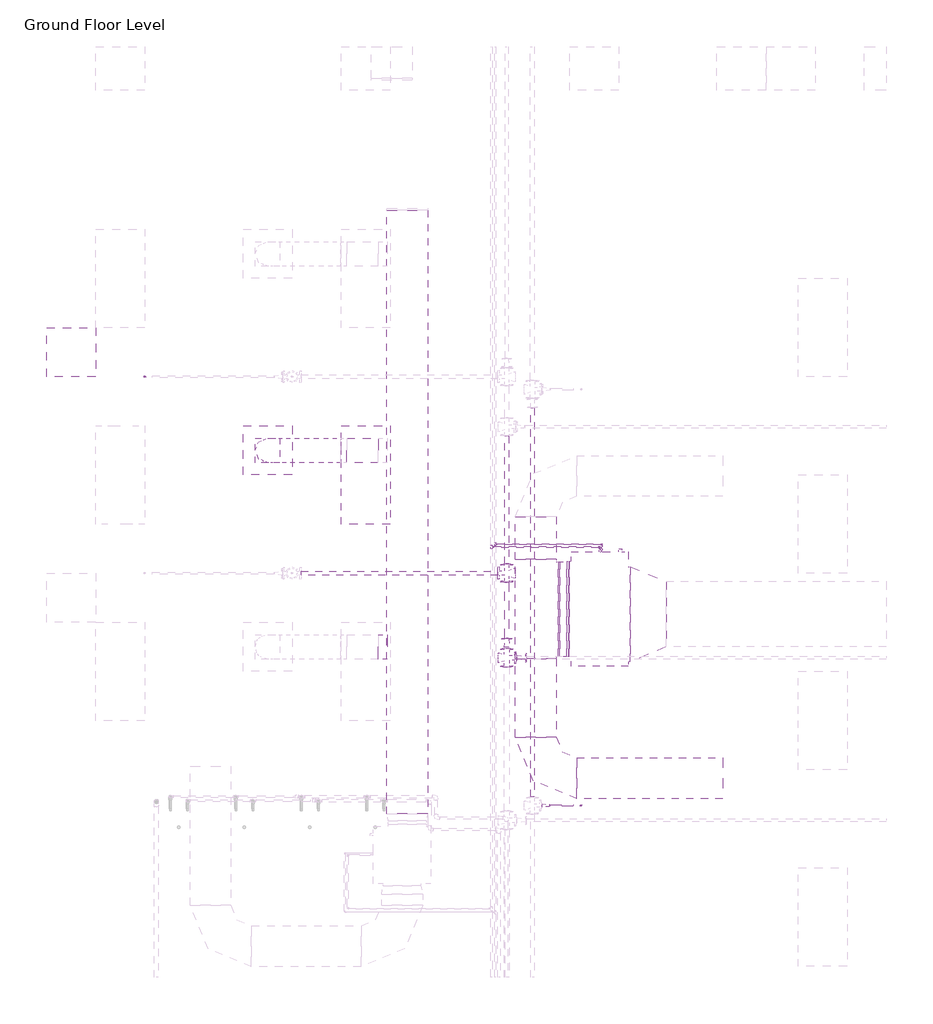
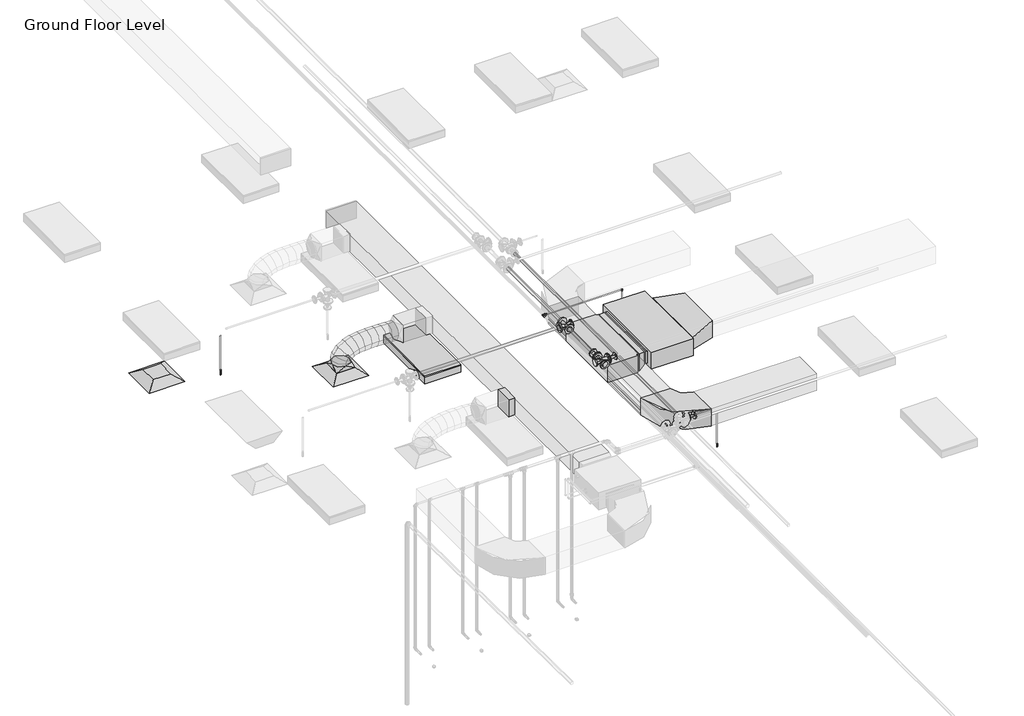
# One storey, part 26 of 75: 15 pipe fittings, 13 pipe segments, 8 duct segments, 7 duct fittings, 2 air terminals, 2 fire suppression terminals, 1 light fixture, 1 proxy.
"""IFC4 building model written with IfcOpenShell, lengths in millimetres."""

from ifc_helpers import new_model, si_unit, point, frame, frame_2d, origin, place, context, project, spatial, polyline, circle_curve, ellipse_curve, trimmed, segment, composite_curve, outline, extrude, transform, mapped, element, save
from ifc_brep_helpers import plane_surface, cylinder_surface, advanced_brep
from components import m_return_diffuser_600_x_600_face_300_x_300_connection_ff221211, fcu_daikin_iu_5a1bd61d, m_rectangular_elbow_radius_1_w_abe20169, m_rectangular_takeoff_standard_cb0ccb98, m_rectangular_tee_standard_c717c13b, m_rectangular_transition_angle_45_degree_d2868699, m_rectangular_transition_angle_45_degree_3270bfc3, m_rectangular_transition_angle_45_degree_83bbb609, m_rectangular_to_round_transition_angle_45_degree_641efff0, m_sprinkler_dry_pendent_hosted_15_mm_dry_pendent_9bda8e11, m_sprinkler_pendent_15_mm_pendent_06fcbd8e, m_troffer_light_parabolic_rectangular1_0600x1200mm_4_lamp_86473d4a, m_elbow_generic_standard_a088f956, m_elbow_generic_standard_2a704253, m_elbow_generic_standard_411ee063, m_elbow_generic_standard_a67d3ed8, m_reducer_flanged_cs_class_150_standard_cc2a7c1d, m_reducer_flanged_cs_class_150_standard_3ab32b2b, m_reducer_flanged_cs_class_150_standard_a7631c35, m_tee_generic_standard_5b2ed4d4, m_tee_generic_standard_5078887e, m_tee_round_base_flanged_cs_class_150_standard_dd767e04, m_tee_round_base_flanged_cs_class_150_standard_ab36f383, m_transition_generic_standard_5f8a9689, m_transition_generic_standard_bdcfe2c1, m_transition_generic_standard_44e35838, m_transition_generic_standard_570aa73b

model = new_model("IFC4")

# Units and contexts
model_context = context("Model", 3, world=origin())
ifc_project = project(units=[si_unit("LENGTHUNIT", "METRE", prefix="MILLI")], contexts=[model_context])

# Site, building, storey
site = spatial("IfcSite", under=ifc_project)
building = spatial("IfcBuilding", under=site)
storey = spatial("IfcBuildingStorey", under=building, Name="Ground Floor Level", Elevation=900.0)

# Air terminals
placement = place(None, origin())
m_return_diffuser_600_x_600_face_300_x_300_connection_shape = m_return_diffuser_600_x_600_face_300_x_300_connection_ff221211(model_context)
element("IfcAirTerminal", 1, ObjectType="M_Return Diffuser : 600 x 600 Face 300 x 300 Connection", at=placement, inside=storey, context=model_context, shape_type="MappedRepresentation", body=[
    mapped(m_return_diffuser_600_x_600_face_300_x_300_connection_shape, transform((362.7672395, -18364.7846466, 3650.0), x_axis=(1.0, 0.0, 0.0), y_axis=(0.0, 1.0, 0.0), z_axis=(0.0, 0.0, 1.0))),
])
element("IfcAirTerminal", 2, ObjectType="M_Supply Diffuser : 600 x 600 Face 300 x 300 Connection", at=placement, inside=storey, context=model_context, shape_type="MappedRepresentation", body=[
    mapped(m_return_diffuser_600_x_600_face_300_x_300_connection_shape, transform((2762.7672395, -19564.7846466, 3650.0), x_axis=(1.0, 0.0, 0.0), y_axis=(0.0, 1.0, 0.0), z_axis=(0.0, 0.0, 1.0))),
])

# Proxy
fcu_daikin_iu_shape = fcu_daikin_iu_5a1bd61d(model_context)
element("IfcBuildingElementProxy", 3, Name="FCU-DAIKIN IU : 9kW, 230V/50Hz/1Ph", ObjectType="FCU-DAIKIN IU : 9kW, 230V/50Hz/1Ph", at=placement, inside=storey, context=model_context, shape_type="MappedRepresentation", body=[
    mapped(fcu_daikin_iu_shape, transform((6820.4959647, -21503.0689179, 3984.0882279), x_axis=(0.0, 1.0, 0.0), y_axis=(-1.0, 0.0, 0.0), z_axis=(0.0, 0.0, 1.0))),
])

# Duct fittings
m_rectangular_elbow_radius_1_w_shape = m_rectangular_elbow_radius_1_w_abe20169(model_context)
element("IfcDuctFitting", 4, ObjectType="M_Rectangular Elbow - Radius : 1 W", at=placement, inside=storey, context=model_context, shape_type="MappedRepresentation", body=[
    mapped(m_rectangular_elbow_radius_1_w_shape, transform((6040.9897768, -23568.5689179, 4082.4543707), x_axis=(0.0, -1.0, 0.0), y_axis=(1.0, 0.0, 0.0), z_axis=(0.0, 0.0, 1.0))),
])
m_rectangular_takeoff_standard_shape = m_rectangular_takeoff_standard_cb0ccb98(model_context)
element("IfcDuctFitting", 5, ObjectType="M_Rectangular Takeoff : Standard", at=placement, inside=storey, context=model_context, shape_type="MappedRepresentation", body=[
    mapped(m_rectangular_takeoff_standard_shape, transform((4219.1581832, -21964.7846466, 4057.1519579), x_axis=(-1.0, 0.0, 0.0), y_axis=(0.0, 1.0, 0.0), z_axis=(0.0, 0.0, -1.0))),
])
m_rectangular_tee_standard_shape = m_rectangular_tee_standard_c717c13b(model_context)
element("IfcDuctFitting", 6, ObjectType="M_Rectangular Tee : Standard", at=placement, inside=storey, context=model_context, shape_type="MappedRepresentation", body=[
    mapped(m_rectangular_tee_standard_shape, transform((6040.9973279, -21503.0689179, 4082.4405262), x_axis=(0.0, -1.0, 0.0), y_axis=(-1.0, 0.0, 0.0), z_axis=(0.0, 0.0, -1.0))),
])
m_rectangular_transition_angle_45_degree_shape = m_rectangular_transition_angle_45_degree_d2868699(model_context)
element("IfcDuctFitting", 7, ObjectType="M_Rectangular Transition - Angle : 45 Degree", at=placement, inside=storey, context=model_context, shape_type="MappedRepresentation", body=[
    mapped(m_rectangular_transition_angle_45_degree_shape, transform((7195.8959647, -21566.5689179, 4150.0007279), x_axis=(1.0, 0.0, 0.0), y_axis=(0.0, 1.0, 0.0), z_axis=(0.0, 0.0, 1.0))),
])
m_rectangular_transition_angle_45_degree_2_shape = m_rectangular_transition_angle_45_degree_3270bfc3(model_context)
element("IfcDuctFitting", 8, ObjectType="M_Rectangular Transition - Angle : 45 Degree", at=placement, inside=storey, context=model_context, shape_type="MappedRepresentation", body=[
    mapped(m_rectangular_transition_angle_45_degree_2_shape, transform((6445.0959647, -21503.0689179, 4125.2882279), x_axis=(-1.0, 0.0, 0.0), y_axis=(0.0, -1.0, 0.0), z_axis=(0.0, 0.0, 1.0))),
])
m_rectangular_transition_angle_45_degree_3_shape = m_rectangular_transition_angle_45_degree_83bbb609(model_context)
element("IfcDuctFitting", 9, ObjectType="M_Rectangular Transition - Angle : 45 Degree", at=placement, inside=storey, context=model_context, shape_type="MappedRepresentation", body=[
    mapped(m_rectangular_transition_angle_45_degree_3_shape, transform((6416.9897764, -21503.0689179, 4125.4405264), x_axis=(-1.0, 0.0, 0.0), y_axis=(0.0, -1.0, 0.0), z_axis=(0.0, 0.0, 1.0))),
])
m_rectangular_to_round_transition_angle_45_degree_shape = m_rectangular_to_round_transition_angle_45_degree_641efff0(model_context)
element("IfcDuctFitting", 10, ObjectType="M_Rectangular to Round Transition - Angle : 45 Degree", at=placement, inside=storey, context=model_context, shape_type="MappedRepresentation", body=[
    mapped(m_rectangular_to_round_transition_angle_45_degree_shape, transform((2762.7672395, -19564.7846466, 3751.6), x_axis=(0.0, 0.0, 1.0), y_axis=(-1.0, 0.0, 0.0), z_axis=(0.0, -1.0, 0.0))),
])

# Duct segments
element("IfcDuctSegment", 11, ObjectType="Flex - Round", at=placement, inside=storey, context=model_context, shape_type="AdvancedBrep", body=[
    advanced_brep(
    [(2912.7672395, -19564.7846466, 3826.6), (2762.7672395, -19714.7846466, 3826.6), (2612.7672395, -19564.7846466, 3826.6), (2762.7672395, -19414.7846466, 3826.6), (2912.7672395, -19564.7846466, 3832.8904098), (2762.7672395, -19714.7846466, 3856.8495224), (2612.7672395, -19564.7846466, 3880.8086351), (2762.7672395, -19414.7846466, 3856.8495224), (2914.0858346, -19564.7846466, 3836.9127437), (2779.5129112, -19714.7846466, 3907.9316792), (2644.9399878, -19564.7846466, 3978.9506146), (2779.5129112, -19414.7846466, 3907.9316792), (2928.1335887, -19564.7846466, 3855.2238886), (2826.2860191, -19714.7846466, 3968.9000837), (2724.4384494, -19564.7846466, 4082.5762788), (2826.2860191, -19414.7846466, 3968.9000837), (2960.0751433, -19564.7846466, 3874.5771306), (2897.8907021, -19714.7846466, 4012.2850341), (2835.706261, -19564.7846466, 4149.9929377), (2897.8907021, -19414.7846466, 4012.2850341), (3023.3472749, -19564.7846466, 3894.3973079), (2989.1310994, -19714.7846466, 4040.8663511), (2954.9149239, -19564.7846466, 4187.3353943), (2989.1310994, -19414.7846466, 4040.8663511), (3111.2181676, -19564.7846466, 3908.1645223), (3094.81135, -19714.7846466, 4057.4238552), (3078.4045323, -19564.7846466, 4206.6831881), (3094.81135, -19414.7846466, 4057.4238552), (3215.0384102, -19564.7846466, 3914.7714012), (3209.7355929, -19714.7846466, 4064.7373669), (3204.4327755, -19564.7846466, 4214.7033325), (3209.7355929, -19414.7846466, 4064.7373669), (3327.4389939, -19564.7846466, 3915.5738253), (3328.7079672, -19714.7846466, 4065.5867068), (3329.9769404, -19564.7846466, 4215.5995883), (3328.7079672, -19414.7846466, 4065.5867068), (3442.2140413, -19564.7846466, 3912.8121913), (3446.5326119, -19714.7846466, 4062.7516956), (3450.8511825, -19564.7846466, 4212.6911999), (3446.5326119, -19414.7846466, 4062.7516956), (3554.0600336, -19564.7846466, 3909.0604079), (3558.0136661, -19714.7846466, 4059.0121538), (3561.9672986, -19564.7846466, 4208.9638996), (3558.0136661, -19414.7846466, 4059.0121538), (3657.9552689, -19564.7846466, 3907.1479019), (3657.9552689, -19414.7846466, 4057.1479019), (3657.9552689, -19564.7846466, 4207.1479019), (3657.9552689, -19714.7846466, 4057.1479019), (3653.7185823, -19564.7846466, 3907.1479019), (3655.1577438, -19714.7846466, 4057.1479019), (3656.5969053, -19564.7846466, 4207.1479019), (3655.1577438, -19414.7846466, 4057.1479019)],
    [
        (0, 1, circle_curve(frame((2762.7672395, -19564.7846466, 3826.6), z_axis=(0.0, 0.0, -1.0), x_axis=(1.0, 0.0, 0.0)), 150.0)),
        (1, 2, circle_curve(frame((2762.7672395, -19564.7846466, 3826.6), z_axis=(0.0, 0.0, -1.0), x_axis=(1.0, 0.0, 0.0)), 150.0)),
        (2, 3, circle_curve(frame((2762.7672395, -19564.7846466, 3826.6), z_axis=(0.0, 0.0, -1.0), x_axis=(1.0, 0.0, 0.0)), 150.0)),
        (3, 0, circle_curve(frame((2762.7672395, -19564.7846466, 3826.6), z_axis=(0.0, 0.0, -1.0), x_axis=(1.0, 0.0, 0.0)), 150.0)),
        (0, 4),
        (4, 5, ellipse_curve(frame((2762.7672395, -19564.7846466, 3856.8495224), z_axis=(-0.157728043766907, 0.0, -0.9874825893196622), x_axis=(0.9874825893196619, 0.0, -0.15772804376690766)), 151.9014124, 150.0)),
        (5, 1),
        (5, 6, ellipse_curve(frame((2762.7672395, -19564.7846466, 3856.8495224), z_axis=(-0.157728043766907, 0.0, -0.9874825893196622), x_axis=(0.9874825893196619, 0.0, -0.15772804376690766)), 151.9014124, 150.0)),
        (6, 2),
        (6, 7, ellipse_curve(frame((2762.7672395, -19564.7846466, 3856.8495224), z_axis=(-0.157728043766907, 0.0, -0.9874825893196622), x_axis=(0.9874825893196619, 0.0, -0.15772804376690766)), 151.9014124, 150.0)),
        (7, 3),
        (7, 4, ellipse_curve(frame((2762.7672395, -19564.7846466, 3856.8495224), z_axis=(-0.157728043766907, 0.0, -0.9874825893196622), x_axis=(0.9874825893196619, 0.0, -0.15772804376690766)), 151.9014124, 150.0)),
        (4, 8),
        (8, 9, ellipse_curve(frame((2779.5129112, -19564.7846466, 3907.9316792), z_axis=(-0.4667295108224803, 0.0, -0.8844001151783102), x_axis=(0.8844001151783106, 0.0, -0.46672951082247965)), 152.162942, 150.0)),
        (9, 5),
        (9, 10, ellipse_curve(frame((2779.5129112, -19564.7846466, 3907.9316792), z_axis=(-0.4667295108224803, 0.0, -0.8844001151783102), x_axis=(0.8844001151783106, 0.0, -0.46672951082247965)), 152.162942, 150.0)),
        (10, 6),
        (10, 11, ellipse_curve(frame((2779.5129112, -19564.7846466, 3907.9316792), z_axis=(-0.4667295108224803, 0.0, -0.8844001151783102), x_axis=(0.8844001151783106, 0.0, -0.46672951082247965)), 152.162942, 150.0)),
        (11, 7),
        (11, 8, ellipse_curve(frame((2779.5129112, -19564.7846466, 3907.9316792), z_axis=(-0.4667295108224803, 0.0, -0.8844001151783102), x_axis=(0.8844001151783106, 0.0, -0.46672951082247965)), 152.162942, 150.0)),
        (8, 12),
        (12, 13, ellipse_curve(frame((2826.2860191, -19564.7846466, 3968.9000837), z_axis=(-0.7447941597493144, 0.0, -0.667294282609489), x_axis=(0.6672942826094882, 0.0, -0.7447941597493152)), 152.6276671, 150.0)),
        (13, 9),
        (13, 14, ellipse_curve(frame((2826.2860191, -19564.7846466, 3968.9000837), z_axis=(-0.7447941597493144, 0.0, -0.667294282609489), x_axis=(0.6672942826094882, 0.0, -0.7447941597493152)), 152.6276671, 150.0)),
        (14, 10),
        (14, 15, ellipse_curve(frame((2826.2860191, -19564.7846466, 3968.9000837), z_axis=(-0.7447941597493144, 0.0, -0.667294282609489), x_axis=(0.6672942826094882, 0.0, -0.7447941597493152)), 152.6276671, 150.0)),
        (15, 11),
        (15, 12, ellipse_curve(frame((2826.2860191, -19564.7846466, 3968.9000837), z_axis=(-0.7447941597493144, 0.0, -0.667294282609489), x_axis=(0.6672942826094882, 0.0, -0.7447941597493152)), 152.6276671, 150.0)),
        (12, 16),
        (16, 17, ellipse_curve(frame((2897.8907021, -19564.7846466, 4012.2850341), z_axis=(-0.9113860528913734, 0.0, -0.4115525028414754), x_axis=(0.4115525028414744, 0.0, -0.911386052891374)), 151.097225, 150.0)),
        (17, 13),
        (17, 18, ellipse_curve(frame((2897.8907021, -19564.7846466, 4012.2850341), z_axis=(-0.9113860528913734, 0.0, -0.4115525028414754), x_axis=(0.4115525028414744, 0.0, -0.911386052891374)), 151.097225, 150.0)),
        (18, 14),
        (18, 19, ellipse_curve(frame((2897.8907021, -19564.7846466, 4012.2850341), z_axis=(-0.9113860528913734, 0.0, -0.4115525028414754), x_axis=(0.4115525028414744, 0.0, -0.911386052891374)), 151.097225, 150.0)),
        (19, 15),
        (19, 16, ellipse_curve(frame((2897.8907021, -19564.7846466, 4012.2850341), z_axis=(-0.9113860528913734, 0.0, -0.4115525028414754), x_axis=(0.4115525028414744, 0.0, -0.911386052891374)), 151.097225, 150.0)),
        (16, 20),
        (20, 21, ellipse_curve(frame((2989.1310994, -19564.7846466, 4040.8663511), z_axis=(-0.9737822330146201, 0.0, -0.2274822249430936), x_axis=(0.22748222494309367, 0.0, -0.9737822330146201)), 150.4125237, 150.0)),
        (21, 17),
        (21, 22, ellipse_curve(frame((2989.1310994, -19564.7846466, 4040.8663511), z_axis=(-0.9737822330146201, 0.0, -0.2274822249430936), x_axis=(0.22748222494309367, 0.0, -0.9737822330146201)), 150.4125237, 150.0)),
        (22, 18),
        (22, 23, ellipse_curve(frame((2989.1310994, -19564.7846466, 4040.8663511), z_axis=(-0.9737822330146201, 0.0, -0.2274822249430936), x_axis=(0.22748222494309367, 0.0, -0.9737822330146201)), 150.4125237, 150.0)),
        (23, 19),
        (23, 20, ellipse_curve(frame((2989.1310994, -19564.7846466, 4040.8663511), z_axis=(-0.9737822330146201, 0.0, -0.2274822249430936), x_axis=(0.22748222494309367, 0.0, -0.9737822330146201)), 150.4125237, 150.0)),
        (20, 24),
        (24, 25, ellipse_curve(frame((3094.81135, -19564.7846466, 4057.4238552), z_axis=(-0.9940128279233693, 0.0, -0.10926343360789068), x_axis=(0.10926343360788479, 0.0, -0.9940128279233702)), 150.1583568, 150.0)),
        (25, 21),
        (25, 26, ellipse_curve(frame((3094.81135, -19564.7846466, 4057.4238552), z_axis=(-0.9940128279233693, 0.0, -0.10926343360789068), x_axis=(0.10926343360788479, 0.0, -0.9940128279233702)), 150.1583568, 150.0)),
        (26, 22),
        (26, 27, ellipse_curve(frame((3094.81135, -19564.7846466, 4057.4238552), z_axis=(-0.9940128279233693, 0.0, -0.10926343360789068), x_axis=(0.10926343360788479, 0.0, -0.9940128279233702)), 150.1583568, 150.0)),
        (27, 23),
        (27, 24, ellipse_curve(frame((3094.81135, -19564.7846466, 4057.4238552), z_axis=(-0.9940128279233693, 0.0, -0.10926343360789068), x_axis=(0.10926343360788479, 0.0, -0.9940128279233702)), 150.1583568, 150.0)),
        (24, 28),
        (28, 29, ellipse_curve(frame((3209.7355929, -19564.7846466, 4064.7373669), z_axis=(-0.9993754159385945, 0.0, -0.03533805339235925), x_axis=(0.03533805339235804, 0.0, -0.9993754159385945)), 150.0596906, 150.0)),
        (29, 25),
        (29, 30, ellipse_curve(frame((3209.7355929, -19564.7846466, 4064.7373669), z_axis=(-0.9993754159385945, 0.0, -0.03533805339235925), x_axis=(0.03533805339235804, 0.0, -0.9993754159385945)), 150.0596906, 150.0)),
        (30, 26),
        (30, 31, ellipse_curve(frame((3209.7355929, -19564.7846466, 4064.7373669), z_axis=(-0.9993754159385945, 0.0, -0.03533805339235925), x_axis=(0.03533805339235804, 0.0, -0.9993754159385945)), 150.0596906, 150.0)),
        (31, 27),
        (31, 28, ellipse_curve(frame((3209.7355929, -19564.7846466, 4064.7373669), z_axis=(-0.9993754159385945, 0.0, -0.03533805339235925), x_axis=(0.03533805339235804, 0.0, -0.9993754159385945)), 150.0596906, 150.0)),
        (28, 32),
        (32, 33, ellipse_curve(frame((3328.7079672, -19564.7846466, 4065.5867068), z_axis=(-0.9999642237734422, 0.0, 0.008458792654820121), x_axis=(-0.008458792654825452, 0.0, -0.9999642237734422)), 150.0182486, 150.0)),
        (33, 29),
        (33, 34, ellipse_curve(frame((3328.7079672, -19564.7846466, 4065.5867068), z_axis=(-0.9999642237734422, 0.0, 0.008458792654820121), x_axis=(-0.008458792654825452, 0.0, -0.9999642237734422)), 150.0182486, 150.0)),
        (34, 30),
        (34, 35, ellipse_curve(frame((3328.7079672, -19564.7846466, 4065.5867068), z_axis=(-0.9999642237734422, 0.0, 0.008458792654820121), x_axis=(-0.008458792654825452, 0.0, -0.9999642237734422)), 150.0182486, 150.0)),
        (35, 31),
        (35, 32, ellipse_curve(frame((3328.7079672, -19564.7846466, 4065.5867068), z_axis=(-0.9999642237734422, 0.0, 0.008458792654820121), x_axis=(-0.008458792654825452, 0.0, -0.9999642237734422)), 150.0182486, 150.0)),
        (32, 36),
        (36, 37, ellipse_curve(frame((3446.5326119, -19564.7846466, 4062.7516956), z_axis=(-0.9995854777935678, 0.0, 0.02879014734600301), x_axis=(-0.028790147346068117, 0.0, -0.999585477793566)), 150.0016833, 150.0)),
        (37, 33),
        (37, 38, ellipse_curve(frame((3446.5326119, -19564.7846466, 4062.7516956), z_axis=(-0.9995854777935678, 0.0, 0.02879014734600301), x_axis=(-0.028790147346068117, 0.0, -0.999585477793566)), 150.0016833, 150.0)),
        (38, 34),
        (38, 39, ellipse_curve(frame((3446.5326119, -19564.7846466, 4062.7516956), z_axis=(-0.9995854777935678, 0.0, 0.02879014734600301), x_axis=(-0.028790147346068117, 0.0, -0.999585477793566)), 150.0016833, 150.0)),
        (39, 35),
        (39, 36, ellipse_curve(frame((3446.5326119, -19564.7846466, 4062.7516956), z_axis=(-0.9995854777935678, 0.0, 0.02879014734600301), x_axis=(-0.028790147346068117, 0.0, -0.999585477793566)), 150.0016833, 150.0)),
        (36, 40),
        (40, 41, ellipse_curve(frame((3558.0136661, -19564.7846466, 4059.0121538), z_axis=(-0.999652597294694, 0.0, 0.026356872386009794), x_axis=(0.02635687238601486, 0.0, 0.9996525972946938)), 150.0038576, 150.0)),
        (41, 37),
        (41, 42, ellipse_curve(frame((3558.0136661, -19564.7846466, 4059.0121538), z_axis=(-0.999652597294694, 0.0, 0.026356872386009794), x_axis=(0.02635687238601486, 0.0, 0.9996525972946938)), 150.0038576, 150.0)),
        (42, 38),
        (42, 43, ellipse_curve(frame((3558.0136661, -19564.7846466, 4059.0121538), z_axis=(-0.999652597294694, 0.0, 0.026356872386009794), x_axis=(0.02635687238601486, 0.0, 0.9996525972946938)), 150.0038576, 150.0)),
        (43, 39),
        (43, 40, ellipse_curve(frame((3558.0136661, -19564.7846466, 4059.0121538), z_axis=(-0.999652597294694, 0.0, 0.026356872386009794), x_axis=(0.02635687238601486, 0.0, 0.9996525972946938)), 150.0038576, 150.0)),
        (44, 45, circle_curve(frame((3657.9552689, -19564.7846466, 4057.1479019), z_axis=(1.0, 0.0, 0.0), x_axis=(0.0, 0.0, -1.0)), 150.0)),
        (45, 46, circle_curve(frame((3657.9552689, -19564.7846466, 4057.1479019), z_axis=(1.0, 0.0, 0.0), x_axis=(0.0, 0.0, -1.0)), 150.0)),
        (46, 47, circle_curve(frame((3657.9552689, -19564.7846466, 4057.1479019), z_axis=(1.0, 0.0, 0.0), x_axis=(0.0, 0.0, -1.0)), 150.0)),
        (47, 44, circle_curve(frame((3657.9552689, -19564.7846466, 4057.1479019), z_axis=(1.0, 0.0, 0.0), x_axis=(0.0, 0.0, -1.0)), 150.0)),
        (40, 48),
        (48, 49, ellipse_curve(frame((3655.1577438, -19564.7846466, 4057.1479019), z_axis=(-0.9999539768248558, 0.0, 0.009593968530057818), x_axis=(0.009593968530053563, 0.0, 0.9999539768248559)), 150.0069038, 150.0)),
        (49, 41),
        (49, 50, ellipse_curve(frame((3655.1577438, -19564.7846466, 4057.1479019), z_axis=(-0.9999539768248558, 0.0, 0.009593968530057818), x_axis=(0.009593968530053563, 0.0, 0.9999539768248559)), 150.0069038, 150.0)),
        (50, 42),
        (50, 51, ellipse_curve(frame((3655.1577438, -19564.7846466, 4057.1479019), z_axis=(-0.9999539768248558, 0.0, 0.009593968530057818), x_axis=(0.009593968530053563, 0.0, 0.9999539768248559)), 150.0069038, 150.0)),
        (51, 43),
        (51, 48, ellipse_curve(frame((3655.1577438, -19564.7846466, 4057.1479019), z_axis=(-0.9999539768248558, 0.0, 0.009593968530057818), x_axis=(0.009593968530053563, 0.0, 0.9999539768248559)), 150.0069038, 150.0)),
        (48, 44),
        (47, 49),
        (46, 50),
        (45, 51),
    ],
    [
        plane_surface(frame((2762.7672395, -19714.7846466, 3826.6), z_axis=(0.0, 0.0, -1.0), x_axis=(1.0, 0.0, 0.0))),
        cylinder_surface(frame((2762.7672395, -19564.7846466, 3826.6), z_axis=(0.0, 0.0, -1.0), x_axis=(1.0, 0.0, 0.0)), 150.0),
        cylinder_surface(frame((2762.7672395, -19564.7846466, 3856.8495224), z_axis=(-0.3115073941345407, 0.0, -0.9502437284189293), x_axis=(0.9502437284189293, 0.0, -0.3115073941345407)), 150.0),
        cylinder_surface(frame((2779.5129112, -19564.7846466, 3907.9316792), z_axis=(-0.6086828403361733, 0.0, -0.7934136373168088), x_axis=(0.7934136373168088, 0.0, -0.6086828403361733)), 150.0),
        cylinder_surface(frame((2826.2860191, -19564.7846466, 3968.9000837), z_axis=(-0.8552604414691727, 0.0, -0.5181983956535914), x_axis=(0.5181983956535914, 0.0, -0.8552604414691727)), 150.0),
        cylinder_surface(frame((2897.8907021, -19564.7846466, 4012.2850341), z_axis=(-0.9542752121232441, 0.0, -0.29892945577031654), x_axis=(0.29892945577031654, 0.0, -0.9542752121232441)), 150.0),
        cylinder_surface(frame((2989.1310994, -19564.7846466, 4040.8663511), z_axis=(-0.9879478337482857, 0.0, -0.1547872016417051), x_axis=(0.1547872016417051, 0.0, -0.9879478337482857)), 150.0),
        cylinder_surface(frame((3094.81135, -19564.7846466, 4057.4238552), z_axis=(-0.9979812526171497, 0.0, -0.06350920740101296), x_axis=(0.06350920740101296, 0.0, -0.9979812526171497)), 150.0),
        cylinder_surface(frame((3209.7355929, -19564.7846466, 4064.7373669), z_axis=(-0.999974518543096, 0.0, -0.007138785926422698), x_axis=(0.007138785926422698, 0.0, -0.999974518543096)), 150.0),
        cylinder_surface(frame((3328.7079672, -19564.7846466, 4065.5867068), z_axis=(-0.9997106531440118, 0.0, 0.024054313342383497), x_axis=(-0.024054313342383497, 0.0, -0.9997106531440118)), 150.0),
        cylinder_surface(frame((3446.5326119, -19564.7846466, 4062.7516956), z_axis=(-0.9994378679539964, 0.0, 0.0335253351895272), x_axis=(-0.0335253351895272, 0.0, -0.9994378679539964)), 150.0),
        plane_surface(frame((3657.9552689, -19564.7846466, 3907.1479019), z_axis=(1.0, 0.0, 0.0), x_axis=(0.0, 1.0, 0.0))),
        cylinder_surface(frame((3558.0136661, -19564.7846466, 4059.0121538), z_axis=(-0.9998159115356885, 0.0, 0.01918705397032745), x_axis=(-0.01918705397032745, 0.0, -0.9998159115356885)), 150.0),
        cylinder_surface(frame((3655.1577438, -19564.7846466, 4057.1479019), z_axis=(-1.0, 0.0, 0.0), x_axis=(0.0, 0.0, -1.0)), 150.0),
    ],
    [
        (0, [[1, 2, 3, 4]]),
        (1, [[-1, 5, 6, 7]]),
        (1, [[-2, -7, 8, 9]]),
        (1, [[-3, -9, 10, 11]]),
        (1, [[-4, -11, 12, -5]]),
        (2, [[-6, 13, 14, 15]]),
        (2, [[-8, -15, 16, 17]]),
        (2, [[-10, -17, 18, 19]]),
        (2, [[-12, -19, 20, -13]]),
        (3, [[-14, 21, 22, 23]]),
        (3, [[-16, -23, 24, 25]]),
        (3, [[-18, -25, 26, 27]]),
        (3, [[-20, -27, 28, -21]]),
        (4, [[-22, 29, 30, 31]]),
        (4, [[-24, -31, 32, 33]]),
        (4, [[-26, -33, 34, 35]]),
        (4, [[-28, -35, 36, -29]]),
        (5, [[-30, 37, 38, 39]]),
        (5, [[-32, -39, 40, 41]]),
        (5, [[-34, -41, 42, 43]]),
        (5, [[-36, -43, 44, -37]]),
        (6, [[-38, 45, 46, 47]]),
        (6, [[-40, -47, 48, 49]]),
        (6, [[-42, -49, 50, 51]]),
        (6, [[-44, -51, 52, -45]]),
        (7, [[-46, 53, 54, 55]]),
        (7, [[-48, -55, 56, 57]]),
        (7, [[-50, -57, 58, 59]]),
        (7, [[-52, -59, 60, -53]]),
        (8, [[-54, 61, 62, 63]]),
        (8, [[-56, -63, 64, 65]]),
        (8, [[-58, -65, 66, 67]]),
        (8, [[-60, -67, 68, -61]]),
        (9, [[-62, 69, 70, 71]]),
        (9, [[-64, -71, 72, 73]]),
        (9, [[-66, -73, 74, 75]]),
        (9, [[-68, -75, 76, -69]]),
        (10, [[-70, 77, 78, 79]]),
        (10, [[-72, -79, 80, 81]]),
        (10, [[-74, -81, 82, 83]]),
        (10, [[-76, -83, 84, -77]]),
        (11, [[85, 86, 87, 88]]),
        (12, [[-78, 89, 90, 91]]),
        (12, [[-80, -91, 92, 93]]),
        (12, [[-82, -93, 94, 95]]),
        (12, [[-84, -95, 96, -89]]),
        (13, [[-90, 97, -88, 98]]),
        (13, [[-92, -98, -87, 99]]),
        (13, [[-94, -99, -86, 100]]),
        (13, [[-96, -100, -85, -97]]),
    ],
),
])
element("IfcDuctSegment", 12, ObjectType="Radius Elbows / Taps", at=placement, inside=storey, context=model_context, shape_type="SweptSolid", body=[
    extrude(outline(polyline([(0.0, -500.0), (0.0, 0.0), (7371.604175, 0.0), (7371.604175, -500.0), (0.0, -500.0)])), frame((4719.1581832, -16631.8629481, 3907.1429453), z_axis=(0.0, 1.6199957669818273e-06, 0.9999999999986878), x_axis=(0.0, -0.9999999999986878, 1.6199957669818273e-06)), (0.0, 0.0, 1.0), 300.0),
])
element("IfcDuctSegment", 13, ObjectType="Radius Elbows / Taps", at=placement, inside=storey, context=model_context, shape_type="SweptSolid", body=[
    extrude(outline(polyline([(6290.9897768, -20897.5689179), (5790.9897768, -20897.5689179), (5790.9897768, -20377.6206315), (6290.9897768, -20377.6206315), (6290.9897768, -20897.5689179)])), frame((0.0, 0.0, 3932.4543707), z_axis=(0.0, 0.0, 1.0), x_axis=(1.0, 0.0, 0.0)), (0.0, 0.0, 1.0), 300.0),
])
element("IfcDuctSegment", 14, ObjectType="Radius Elbows / Taps", at=placement, inside=storey, context=model_context, shape_type="SweptSolid", body=[
    extrude(outline(polyline([(5790.9897768, -22108.5689179), (6290.9897768, -22108.5689179), (6290.9897768, -23068.5689179), (5790.9897768, -23068.5689179), (5790.9897768, -22108.5689179)])), frame((0.0, 0.0, 3932.4543707), z_axis=(0.0, 0.0, 1.0), x_axis=(1.0, 0.0, 0.0)), (0.0, 0.0, 1.0), 300.0),
])
element("IfcDuctSegment", 15, ObjectType="Radius Elbows / Taps", at=placement, inside=storey, context=model_context, shape_type="SweptSolid", body=[
    extrude(outline(polyline([(6540.9897768, -23818.5689179), (6540.9897768, -23318.5689179), (8320.9897766, -23318.5689179), (8320.9897766, -23818.5689179), (6540.9897768, -23818.5689179)])), frame((0.0, 0.0, 3932.4543707), z_axis=(0.0, 0.0, 1.0), x_axis=(1.0, 0.0, 0.0)), (0.0, 0.0, 1.0), 300.0),
])
element("IfcDuctSegment", 16, ObjectType="Radius Elbows / Taps", at=placement, inside=storey, context=model_context, shape_type="SweptSolid", body=[
    extrude(outline(polyline([(6315.9897764, -22083.5689179), (6315.9897764, -20922.5689179), (6330.9897764, -20922.5689179), (6330.9897764, -22083.5689179), (6315.9897764, -22083.5689179)])), frame((0.0, 0.0, 3932.4405264), z_axis=(0.0, 0.0, 1.0), x_axis=(1.0, 0.0, 0.0)), (0.0, 0.0, 1.0), 300.0),
])
element("IfcDuctSegment", 17, ObjectType="Radius Elbows / Taps", at=placement, inside=storey, context=model_context, shape_type="SweptSolid", body=[
    extrude(outline(polyline([(6444.798299, -20922.0689179), (6444.798299, -22084.0689179), (6416.9897764, -22084.0689179), (6416.9897764, -20922.0689179), (6444.798299, -20922.0689179)])), frame((0.0, 0.0, 4018.4405264), z_axis=(0.0, 0.0, 1.0), x_axis=(1.0, 0.0, 0.0)), (0.0, 0.0, 1.0), 214.0),
])
element("IfcDuctSegment", 18, ObjectType="Radius Elbows / Taps", at=placement, inside=storey, context=model_context, shape_type="SweptSolid", body=[
    extrude(outline(polyline([(4117.5581832, -19414.7846466), (4117.5581832, -19714.7846466), (3732.9552689, -19714.7846466), (3732.9552689, -19414.7846466), (4117.5581832, -19414.7846466)])), frame((0.0, 0.0, 3907.1479019), z_axis=(0.0, 0.0, 1.0), x_axis=(1.0, 0.0, 0.0)), (0.0, 0.0, 1.0), 300.0),
])

# Fire suppression terminals
m_sprinkler_dry_pendent_hosted_15_mm_dry_pendent_shape = m_sprinkler_dry_pendent_hosted_15_mm_dry_pendent_9bda8e11(model_context)
element("IfcFireSuppressionTerminal", 19, ObjectType="M_Sprinkler - Dry - Pendent - Hosted : 15 mm Dry Pendent", at=placement, inside=storey, context=model_context, shape_type="MappedRepresentation", body=[
    mapped(m_sprinkler_dry_pendent_hosted_15_mm_dry_pendent_shape, transform((1262.7672395, -18664.7846466, 3650.0), x_axis=(1.0, 0.0, 0.0), y_axis=(0.0, -1.0, 0.0), z_axis=(0.0, 0.0, -1.0))),
])
m_sprinkler_pendent_15_mm_pendent_shape = m_sprinkler_pendent_15_mm_pendent_06fcbd8e(model_context)
element("IfcFireSuppressionTerminal", 20, ObjectType="M_Sprinkler - Pendent : 15 mm Pendent", at=placement, inside=storey, context=model_context, shape_type="MappedRepresentation", body=[
    mapped(m_sprinkler_pendent_15_mm_pendent_shape, transform((6592.5481019, -23903.6779349, 3650.0), x_axis=(1.0, 0.0, 0.0), y_axis=(0.0, 1.0, 0.0), z_axis=(0.0, 0.0, 1.0))),
])

# Light fixture
m_troffer_light_parabolic_rectangular1_0600x1200mm_4_lamp_shape = m_troffer_light_parabolic_rectangular1_0600x1200mm_4_lamp_86473d4a(model_context)
element("IfcLightFixture", 21, ObjectType="M_Troffer Light - Parabolic Rectangular1 : 0600x1200mm(4 Lamp) - 277V 2", at=placement, inside=storey, context=model_context, shape_type="MappedRepresentation", body=[
    mapped(m_troffer_light_parabolic_rectangular1_0600x1200mm_4_lamp_shape, transform((3903.3013074, -19846.081145, 3650.0), x_axis=(0.0, 1.0, 0.0), y_axis=(-1.0, 0.0, 0.0), z_axis=(0.0, 0.0, 1.0))),
])

# Pipe fittings
m_elbow_generic_standard_shape = m_elbow_generic_standard_a088f956(model_context)
element("IfcPipeFitting", 22, ObjectType="M_Elbow - Generic : Standard", at=placement, inside=storey, context=model_context, shape_type="MappedRepresentation", body=[
    mapped(m_elbow_generic_standard_shape, transform((6820.4959647, -20745.3977393, 4390.0), x_axis=(1.0, 0.0, 0.0), y_axis=(0.0, 0.0, -1.0), z_axis=(0.0, 1.0, 0.0))),
])
m_elbow_generic_standard_2_shape = m_elbow_generic_standard_2a704253(model_context)
element("IfcPipeFitting", 23, ObjectType="M_Elbow - Generic : Standard", at=placement, inside=storey, context=model_context, shape_type="MappedRepresentation", body=[
    mapped(m_elbow_generic_standard_2_shape, transform((6845.4959647, -20711.8462992, 4377.5), x_axis=(1.0, 0.0, 0.0), y_axis=(0.0, 0.0, -1.0), z_axis=(0.0, 1.0, 0.0))),
])
m_elbow_generic_standard_3_shape = m_elbow_generic_standard_411ee063(model_context)
element("IfcPipeFitting", 24, ObjectType="M_Elbow - Generic : Standard", at=placement, inside=storey, context=model_context, shape_type="MappedRepresentation", body=[
    mapped(m_elbow_generic_standard_3_shape, transform((6820.4959647, -20745.3896748, 4084.1050098), x_axis=(0.0, 0.0, -1.0), y_axis=(0.0, -1.0, 0.0), z_axis=(-1.0, 0.0, 0.0))),
])
m_elbow_generic_standard_4_shape = m_elbow_generic_standard_a67d3ed8(model_context)
element("IfcPipeFitting", 25, ObjectType="M_Elbow - Generic : Standard", at=placement, inside=storey, context=model_context, shape_type="MappedRepresentation", body=[
    mapped(m_elbow_generic_standard_4_shape, transform((6845.4959647, -20711.8400273, 4134.9034747), x_axis=(0.0, 0.0, -1.0), y_axis=(0.0, -1.0, 0.0), z_axis=(-1.0, 0.0, 0.0))),
])
m_reducer_flanged_cs_class_150_standard_shape = m_reducer_flanged_cs_class_150_standard_cc2a7c1d(model_context)
element("IfcPipeFitting", 26, ObjectType="M_Reducer - Flanged - CS - Class 150 : Standard", at=placement, inside=storey, context=model_context, shape_type="MappedRepresentation", body=[
    mapped(m_reducer_flanged_cs_class_150_standard_shape, transform((6103.1564057, -23903.6779349, 4291.2754753), x_axis=(1.0, 0.0, 0.0), y_axis=(0.0, 0.0, -1.0), z_axis=(0.0, 1.0, 0.0))),
])
m_reducer_flanged_cs_class_150_standard_2_shape = m_reducer_flanged_cs_class_150_standard_3ab32b2b(model_context)
element("IfcPipeFitting", 27, ObjectType="M_Reducer - Flanged - CS - Class 150 : Standard", at=placement, inside=storey, context=model_context, shape_type="MappedRepresentation", body=[
    mapped(m_reducer_flanged_cs_class_150_standard_2_shape, transform((5684.6174894, -21984.0287346, 4347.5), x_axis=(0.0, 1.0, 0.0), y_axis=(-1.0, 0.0, 0.0), z_axis=(0.0, 0.0, 1.0))),
])
m_reducer_flanged_cs_class_150_standard_3_shape = m_reducer_flanged_cs_class_150_standard_a7631c35(model_context)
element("IfcPipeFitting", 28, ObjectType="M_Reducer - Flanged - CS - Class 150 : Standard", at=placement, inside=storey, context=model_context, shape_type="MappedRepresentation", body=[
    mapped(m_reducer_flanged_cs_class_150_standard_3_shape, transform((5798.6174894, -22098.0287346, 4347.5), x_axis=(1.0, 0.0, 0.0), y_axis=(0.0, 0.0, 1.0), z_axis=(0.0, -1.0, 0.0))),
])
m_tee_generic_standard_shape = m_tee_generic_standard_5b2ed4d4(model_context)
element("IfcPipeFitting", 29, ObjectType="M_Tee - Generic : Standard", at=placement, inside=storey, context=model_context, shape_type="MappedRepresentation", body=[
    mapped(m_tee_generic_standard_shape, transform((5543.9904113, -20711.8462992, 4377.5), x_axis=(0.0, -1.0, 0.0), y_axis=(-1.0, 0.0, 0.0), z_axis=(0.0, 0.0, -1.0))),
])
m_tee_generic_standard_2_shape = m_tee_generic_standard_5078887e(model_context)
element("IfcPipeFitting", 30, ObjectType="M_Tee - Generic : Standard", at=placement, inside=storey, context=model_context, shape_type="MappedRepresentation", body=[
    mapped(m_tee_generic_standard_2_shape, transform((5497.8951827, -20745.3977393, 4390.0), x_axis=(0.0, -1.0, 0.0), y_axis=(-1.0, 0.0, 0.0), z_axis=(0.0, 0.0, -1.0))),
])
m_tee_round_base_flanged_cs_class_150_standard_shape = m_tee_round_base_flanged_cs_class_150_standard_dd767e04(model_context)
element("IfcPipeFitting", 31, ObjectType="M_Tee Round Base - Flanged - CS - Class 150 : Standard", at=placement, inside=storey, context=model_context, shape_type="MappedRepresentation", body=[
    mapped(m_tee_round_base_flanged_cs_class_150_standard_shape, transform((5684.6174894, -22098.0287346, 4347.5), x_axis=(0.0, -1.0, 0.0), y_axis=(-1.0, 0.0, 0.0), z_axis=(0.0, 0.0, -1.0))),
])
m_tee_round_base_flanged_cs_class_150_standard_2_shape = m_tee_round_base_flanged_cs_class_150_standard_ab36f383(model_context)
element("IfcPipeFitting", 32, ObjectType="M_Tee Round Base - Flanged - CS - Class 150 : Standard", at=placement, inside=storey, context=model_context, shape_type="MappedRepresentation", body=[
    mapped(m_tee_round_base_flanged_cs_class_150_standard_2_shape, transform((5684.6174894, -21064.7846466, 4347.5), x_axis=(0.0, -1.0, 0.0), y_axis=(1.0, 0.0, 0.0), z_axis=(0.0, 0.0, 1.0))),
])
m_transition_generic_standard_shape = m_transition_generic_standard_5f8a9689(model_context)
element("IfcPipeFitting", 33, ObjectType="M_Transition - Generic : Standard", at=placement, inside=storey, context=model_context, shape_type="MappedRepresentation", body=[
    mapped(m_transition_generic_standard_shape, transform((5497.8951827, -20721.5852393, 4390.0), x_axis=(0.0, 1.0, 0.0), y_axis=(-1.0, 0.0, 0.0), z_axis=(0.0, 0.0, 1.0))),
])
m_transition_generic_standard_2_shape = m_transition_generic_standard_bdcfe2c1(model_context)
element("IfcPipeFitting", 34, ObjectType="M_Transition - Generic : Standard", at=placement, inside=storey, context=model_context, shape_type="MappedRepresentation", body=[
    mapped(m_transition_generic_standard_2_shape, transform((5564.6279113, -20711.8462992, 4377.5), x_axis=(1.0, 0.0, 0.0), y_axis=(0.0, 1.0, 0.0), z_axis=(0.0, 0.0, 1.0))),
])
m_transition_generic_standard_3_shape = m_transition_generic_standard_44e35838(model_context)
element("IfcPipeFitting", 35, ObjectType="M_Transition - Generic : Standard", at=placement, inside=storey, context=model_context, shape_type="MappedRepresentation", body=[
    mapped(m_transition_generic_standard_3_shape, transform((5521.7076827, -20745.3977393, 4390.0), x_axis=(1.0, 0.0, 0.0), y_axis=(0.0, 1.0, 0.0), z_axis=(0.0, 0.0, 1.0))),
])
m_transition_generic_standard_4_shape = m_transition_generic_standard_570aa73b(model_context)
element("IfcPipeFitting", 36, ObjectType="M_Transition - Generic : Standard", at=placement, inside=storey, context=model_context, shape_type="MappedRepresentation", body=[
    mapped(m_transition_generic_standard_4_shape, transform((5543.9904113, -20691.2087992, 4377.5), x_axis=(0.0, 1.0, 0.0), y_axis=(-1.0, 0.0, 0.0), z_axis=(0.0, 0.0, 1.0))),
])

# Pipe segments
element("IfcPipeSegment", 37, ObjectType="Copper", at=placement, inside=storey, context=model_context, shape_type="SweptSolid", body=[
    extrude(outline(composite_curve([segment(trimmed(circle_curve(frame_2d((-20711.8462992, 4377.5)), 3.35), [point((-20715.1962992, 4377.5))], [point((-20711.8462992, 4380.85))], False, "CARTESIAN"), True, "CONTINUOUS"), segment(trimmed(circle_curve(frame_2d((-20711.8462992, 4377.5)), 3.35), [point((-20711.8462992, 4380.85))], [point((-20708.4962992, 4377.5))], False, "CARTESIAN"), True, "CONTINUOUS"), segment(trimmed(circle_curve(frame_2d((-20711.8462992, 4377.5)), 3.35), [point((-20708.4962992, 4377.5))], [point((-20711.8462992, 4374.15))], False, "CARTESIAN"), True, "CONTINUOUS"), segment(trimmed(circle_curve(frame_2d((-20711.8462992, 4377.5)), 3.35), [point((-20711.8462992, 4374.15))], [point((-20715.1962992, 4377.5))], False, "CARTESIAN"), True, "CONTINUOUS")], self_intersect=False)), frame((5568.5966613, 0.0, 0.0), z_axis=(1.0, 0.0, 0.0), x_axis=(0.0, 1.0, 0.0)), (0.0, 0.0, 1.0), 1265.7618034),
])
element("IfcPipeSegment", 38, ObjectType="Copper", at=placement, inside=storey, context=model_context, shape_type="SweptSolid", body=[
    extrude(outline(composite_curve([segment(trimmed(circle_curve(frame_2d((-20745.3977393, 4390.0)), 6.5), [point((-20751.8977393, 4390.0))], [point((-20745.3977393, 4396.5))], False, "CARTESIAN"), True, "CONTINUOUS"), segment(trimmed(circle_curve(frame_2d((-20745.3977393, 4390.0)), 6.5), [point((-20745.3977393, 4396.5))], [point((-20738.8977393, 4390.0))], False, "CARTESIAN"), True, "CONTINUOUS"), segment(trimmed(circle_curve(frame_2d((-20745.3977393, 4390.0)), 6.5), [point((-20738.8977393, 4390.0))], [point((-20745.3977393, 4383.5))], False, "CARTESIAN"), True, "CONTINUOUS"), segment(trimmed(circle_curve(frame_2d((-20745.3977393, 4390.0)), 6.5), [point((-20745.3977393, 4383.5))], [point((-20751.8977393, 4390.0))], False, "CARTESIAN"), True, "CONTINUOUS")], self_intersect=False)), frame((5527.2639327, 0.0, 0.0), z_axis=(1.0, 0.0, 0.0), x_axis=(0.0, 1.0, 0.0)), (0.0, 0.0, 1.0), 1278.9445321),
])
element("IfcPipeSegment", 39, ObjectType="Copper", at=placement, inside=storey, context=model_context, shape_type="SweptSolid", body=[
    extrude(outline(composite_curve([segment(trimmed(circle_curve(frame_2d((0.0, -6.5)), 6.5), [point((-6.5, -6.5))], [point((0.0, 0.0))], False, "CARTESIAN"), True, "CONTINUOUS"), segment(trimmed(circle_curve(frame_2d((0.0, -6.5)), 6.5), [point((0.0, 0.0))], [point((6.5, -6.5))], False, "CARTESIAN"), True, "CONTINUOUS"), segment(trimmed(circle_curve(frame_2d((0.0, -6.5)), 6.5), [point((6.5, -6.5))], [point((0.0, -13.0))], False, "CARTESIAN"), True, "CONTINUOUS"), segment(trimmed(circle_curve(frame_2d((0.0, -6.5)), 6.5), [point((0.0, -13.0))], [point((-6.5, -6.5))], False, "CARTESIAN"), True, "CONTINUOUS")], self_intersect=False)), frame((6820.4959647, -20764.9497842, 4077.5882561), z_axis=(0.0, 0.9999956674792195, 0.0029436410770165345), x_axis=(1.0, 0.0, 0.0)), (0.0, 0.0, 1.0), 5.2929673),
])
element("IfcPipeSegment", 40, ObjectType="Copper", at=placement, inside=storey, context=model_context, shape_type="SweptSolid", body=[
    extrude(outline(composite_curve([segment(trimmed(circle_curve(frame_2d((0.0, -3.35)), 3.35), [point((0.0, 0.0))], [point((3.35, -3.35))], False, "CARTESIAN"), True, "CONTINUOUS"), segment(trimmed(circle_curve(frame_2d((0.0, -3.35)), 3.35), [point((3.35, -3.35))], [point((0.0, -6.7))], False, "CARTESIAN"), True, "CONTINUOUS"), segment(trimmed(circle_curve(frame_2d((0.0, -3.35)), 3.35), [point((0.0, -6.7))], [point((-3.35, -3.35))], False, "CARTESIAN"), True, "CONTINUOUS"), segment(trimmed(circle_curve(frame_2d((0.0, -3.35)), 3.35), [point((-3.35, -3.35))], [point((0.0, 0.0))], False, "CARTESIAN"), True, "CONTINUOUS")], self_intersect=False)), frame((6842.1459647, -20764.9689179, 4134.8882279), z_axis=(0.0, 0.9999999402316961, 0.00034574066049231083), x_axis=(0.0, 0.00034574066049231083, -0.9999999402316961)), (0.0, 0.0, 1.0), 41.9921215),
])
element("IfcPipeSegment", 41, ObjectType="Copper", at=placement, inside=storey, context=model_context, shape_type="SweptSolid", body=[
    extrude(outline(composite_curve([segment(trimmed(circle_curve(frame_2d((0.0, -6.5)), 6.5), [point((-6.5, -6.5))], [point((0.0, 0.0))], False, "CARTESIAN"), True, "CONTINUOUS"), segment(trimmed(circle_curve(frame_2d((0.0, -6.5)), 6.5), [point((0.0, 0.0))], [point((6.5, -6.5))], False, "CARTESIAN"), True, "CONTINUOUS"), segment(trimmed(circle_curve(frame_2d((0.0, -6.5)), 6.5), [point((6.5, -6.5))], [point((0.0, -13.0))], False, "CARTESIAN"), True, "CONTINUOUS"), segment(trimmed(circle_curve(frame_2d((0.0, -6.5)), 6.5), [point((0.0, -13.0))], [point((-6.5, -6.5))], False, "CARTESIAN"), True, "CONTINUOUS")], self_intersect=False)), frame((6820.4959647, -20751.8896748, 4098.3911194), z_axis=(0.0, -2.907973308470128e-05, 0.9999999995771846), x_axis=(-1.0, 0.0, 0.0)), (0.0, 0.0, 1.0), 277.3211917),
])
element("IfcPipeSegment", 42, ObjectType="Copper", at=placement, inside=storey, context=model_context, shape_type="SweptSolid", body=[
    extrude(outline(composite_curve([segment(trimmed(circle_curve(frame_2d((0.0, -3.35)), 3.35), [point((-3.35, -3.35))], [point((0.0, 0.0))], False, "CARTESIAN"), True, "CONTINUOUS"), segment(trimmed(circle_curve(frame_2d((0.0, -3.35)), 3.35), [point((0.0, 0.0))], [point((3.35, -3.35))], False, "CARTESIAN"), True, "CONTINUOUS"), segment(trimmed(circle_curve(frame_2d((0.0, -3.35)), 3.35), [point((3.35, -3.35))], [point((0.0, -6.7))], False, "CARTESIAN"), True, "CONTINUOUS"), segment(trimmed(circle_curve(frame_2d((0.0, -3.35)), 3.35), [point((0.0, -6.7))], [point((-3.35, -3.35))], False, "CARTESIAN"), True, "CONTINUOUS")], self_intersect=False)), frame((6845.4959647, -20715.1900273, 4146.0401509), z_axis=(0.0, -2.8466951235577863e-05, 0.9999999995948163), x_axis=(-1.0, 0.0, 0.0)), (0.0, 0.0, 1.0), 220.3222538),
])
element("IfcPipeSegment", 43, ObjectType="Steel flanged", at=placement, inside=storey, context=model_context, shape_type="SweptSolid", body=[
    extrude(outline(composite_curve([segment(trimmed(circle_curve(frame_2d((6592.5481019, -23903.6779349)), 10.668), [point((6581.8801019, -23903.6779349))], [point((6592.5481019, -23893.0099349))], False, "CARTESIAN"), True, "CONTINUOUS"), segment(trimmed(circle_curve(frame_2d((6592.5481019, -23903.6779349)), 10.668), [point((6592.5481019, -23893.0099349))], [point((6603.2161019, -23903.6779349))], False, "CARTESIAN"), True, "CONTINUOUS"), segment(trimmed(circle_curve(frame_2d((6592.5481019, -23903.6779349)), 10.668), [point((6603.2161019, -23903.6779349))], [point((6592.5481019, -23914.3459349))], False, "CARTESIAN"), True, "CONTINUOUS"), segment(trimmed(circle_curve(frame_2d((6592.5481019, -23903.6779349)), 10.668), [point((6592.5481019, -23914.3459349))], [point((6581.8801019, -23903.6779349))], False, "CARTESIAN"), True, "CONTINUOUS")], self_intersect=False)), frame((0.0, 0.0, 3650.0), z_axis=(0.0, 0.0, 1.0), x_axis=(1.0, 0.0, 0.0)), (0.0, 0.0, 1.0), 548.2668816),
])
element("IfcPipeSegment", 44, ObjectType="Steel flanged", at=placement, inside=storey, context=model_context, shape_type="SweptSolid", body=[
    extrude(outline(composite_curve([segment(trimmed(circle_curve(frame_2d((-23903.6779349, 4291.2754753)), 10.668), [point((-23893.0099349, 4291.2754753))], [point((-23903.6779349, 4280.6074753))], False, "CARTESIAN"), True, "CONTINUOUS"), segment(trimmed(circle_curve(frame_2d((-23903.6779349, 4291.2754753)), 10.668), [point((-23903.6779349, 4280.6074753))], [point((-23914.3459349, 4291.2754753))], False, "CARTESIAN"), True, "CONTINUOUS"), segment(trimmed(circle_curve(frame_2d((-23903.6779349, 4291.2754753)), 10.668), [point((-23914.3459349, 4291.2754753))], [point((-23903.6779349, 4301.9434753))], False, "CARTESIAN"), True, "CONTINUOUS"), segment(trimmed(circle_curve(frame_2d((-23903.6779349, 4291.2754753)), 10.668), [point((-23903.6779349, 4301.9434753))], [point((-23893.0099349, 4291.2754753))], False, "CARTESIAN"), True, "CONTINUOUS")], self_intersect=False)), frame((6217.1564057, 0.0, 0.0), z_axis=(1.0, 0.0, 0.0), x_axis=(0.0, 1.0, 0.0)), (0.0, 0.0, 1.0), 282.3831025),
])
element("IfcPipeSegment", 45, ObjectType="Steel flanged", at=placement, inside=storey, context=model_context, shape_type="SweptSolid", body=[
    extrude(outline(composite_curve([segment(trimmed(circle_curve(frame_2d((4291.0943441, 5997.057812)), 21.082), [point((4291.0943441, 5975.975812))], [point((4270.0123441, 5997.057812))], False, "CARTESIAN"), True, "CONTINUOUS"), segment(trimmed(circle_curve(frame_2d((4291.0943441, 5997.057812)), 21.082), [point((4270.0123441, 5997.057812))], [point((4291.0943441, 6018.139812))], False, "CARTESIAN"), True, "CONTINUOUS"), segment(trimmed(circle_curve(frame_2d((4291.0943441, 5997.057812)), 21.082), [point((4291.0943441, 6018.139812))], [point((4312.1763441, 5997.057812))], False, "CARTESIAN"), True, "CONTINUOUS"), segment(trimmed(circle_curve(frame_2d((4291.0943441, 5997.057812)), 21.082), [point((4312.1763441, 5997.057812))], [point((4291.0943441, 5975.975812))], False, "CARTESIAN"), True, "CONTINUOUS")], self_intersect=False)), frame((0.0, -23797.5793411, 0.0), z_axis=(0.0, 1.0, 0.0), x_axis=(0.0, 0.0, 1.0)), (0.0, 0.0, 1.0), 4752.4508334),
])
element("IfcPipeSegment", 46, ObjectType="Steel flanged", at=placement, inside=storey, context=model_context, shape_type="SweptSolid", body=[
    extrude(outline(composite_curve([segment(trimmed(circle_curve(frame_2d((1262.7672395, -18664.7846466)), 10.668), [point((1252.0992395, -18664.7846466))], [point((1262.7672395, -18654.1166466))], False, "CARTESIAN"), True, "CONTINUOUS"), segment(trimmed(circle_curve(frame_2d((1262.7672395, -18664.7846466)), 10.668), [point((1262.7672395, -18654.1166466))], [point((1273.4352395, -18664.7846466))], False, "CARTESIAN"), True, "CONTINUOUS"), segment(trimmed(circle_curve(frame_2d((1262.7672395, -18664.7846466)), 10.668), [point((1273.4352395, -18664.7846466))], [point((1262.7672395, -18675.4526466))], False, "CARTESIAN"), True, "CONTINUOUS"), segment(trimmed(circle_curve(frame_2d((1262.7672395, -18664.7846466)), 10.668), [point((1262.7672395, -18675.4526466))], [point((1252.0992395, -18664.7846466))], False, "CARTESIAN"), True, "CONTINUOUS")], self_intersect=False)), frame((0.0, 0.0, 3650.0), z_axis=(0.0, 0.0, 1.0), x_axis=(1.0, 0.0, 0.0)), (0.0, 0.0, 1.0), 604.4914062),
])
element("IfcPipeSegment", 47, ObjectType="Steel flanged", at=placement, inside=storey, context=model_context, shape_type="SweptSolid", body=[
    extrude(outline(composite_curve([segment(trimmed(circle_curve(frame_2d((4347.5, 5684.6174894)), 24.13), [point((4347.5, 5708.7474894))], [point((4371.63, 5684.6174894))], False, "CARTESIAN"), True, "CONTINUOUS"), segment(trimmed(circle_curve(frame_2d((4347.5, 5684.6174894)), 24.13), [point((4371.63, 5684.6174894))], [point((4347.5, 5660.4874894))], False, "CARTESIAN"), True, "CONTINUOUS"), segment(trimmed(circle_curve(frame_2d((4347.5, 5684.6174894)), 24.13), [point((4347.5, 5660.4874894))], [point((4323.37, 5684.6174894))], False, "CARTESIAN"), True, "CONTINUOUS"), segment(trimmed(circle_curve(frame_2d((4347.5, 5684.6174894)), 24.13), [point((4323.37, 5684.6174894))], [point((4347.5, 5708.7474894))], False, "CARTESIAN"), True, "CONTINUOUS")], self_intersect=False)), frame((0.0, -20952.5260529, 0.0), z_axis=(0.0, 1.0, 0.0), x_axis=(0.0, 0.0, 1.0)), (0.0, 0.0, 1.0), 1564.3818468),
])
element("IfcPipeSegment", 48, ObjectType="Steel flanged", at=placement, inside=storey, context=model_context, shape_type="SweptSolid", body=[
    extrude(outline(composite_curve([segment(trimmed(circle_curve(frame_2d((4347.5, 5684.6174894)), 24.13), [point((4347.5, 5708.7474894))], [point((4371.63, 5684.6174894))], False, "CARTESIAN"), True, "CONTINUOUS"), segment(trimmed(circle_curve(frame_2d((4347.5, 5684.6174894)), 24.13), [point((4371.63, 5684.6174894))], [point((4347.5, 5660.4874894))], False, "CARTESIAN"), True, "CONTINUOUS"), segment(trimmed(circle_curve(frame_2d((4347.5, 5684.6174894)), 24.13), [point((4347.5, 5660.4874894))], [point((4323.37, 5684.6174894))], False, "CARTESIAN"), True, "CONTINUOUS"), segment(trimmed(circle_curve(frame_2d((4347.5, 5684.6174894)), 24.13), [point((4323.37, 5684.6174894))], [point((4347.5, 5708.7474894))], False, "CARTESIAN"), True, "CONTINUOUS")], self_intersect=False)), frame((0.0, -21857.0287346, 0.0), z_axis=(0.0, 1.0, 0.0), x_axis=(0.0, 0.0, 1.0)), (0.0, 0.0, 1.0), 679.9854942),
])
element("IfcPipeSegment", 49, ObjectType="Steel flanged", at=placement, inside=storey, context=model_context, shape_type="SweptSolid", body=[
    extrude(outline(composite_curve([segment(trimmed(circle_curve(frame_2d((-21064.7846466, 4347.5)), 24.13), [point((-21088.9146466, 4347.5))], [point((-21064.7846466, 4371.63))], False, "CARTESIAN"), True, "CONTINUOUS"), segment(trimmed(circle_curve(frame_2d((-21064.7846466, 4347.5)), 24.13), [point((-21064.7846466, 4371.63))], [point((-21040.6546466, 4347.5))], False, "CARTESIAN"), True, "CONTINUOUS"), segment(trimmed(circle_curve(frame_2d((-21064.7846466, 4347.5)), 24.13), [point((-21040.6546466, 4347.5))], [point((-21064.7846466, 4323.37))], False, "CARTESIAN"), True, "CONTINUOUS"), segment(trimmed(circle_curve(frame_2d((-21064.7846466, 4347.5)), 24.13), [point((-21064.7846466, 4323.37))], [point((-21088.9146466, 4347.5))], False, "CARTESIAN"), True, "CONTINUOUS")], self_intersect=False)), frame((3175.0258332, 0.0, 0.0), z_axis=(1.0, 0.0, 0.0), x_axis=(0.0, 1.0, 0.0)), (0.0, 0.0, 1.0), 2397.3330624),
])

save(model, "model.ifc")
